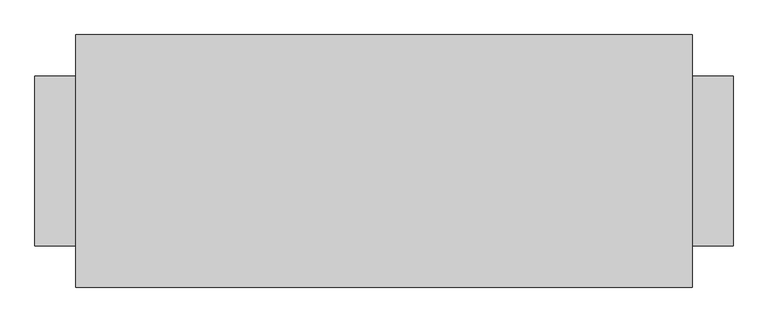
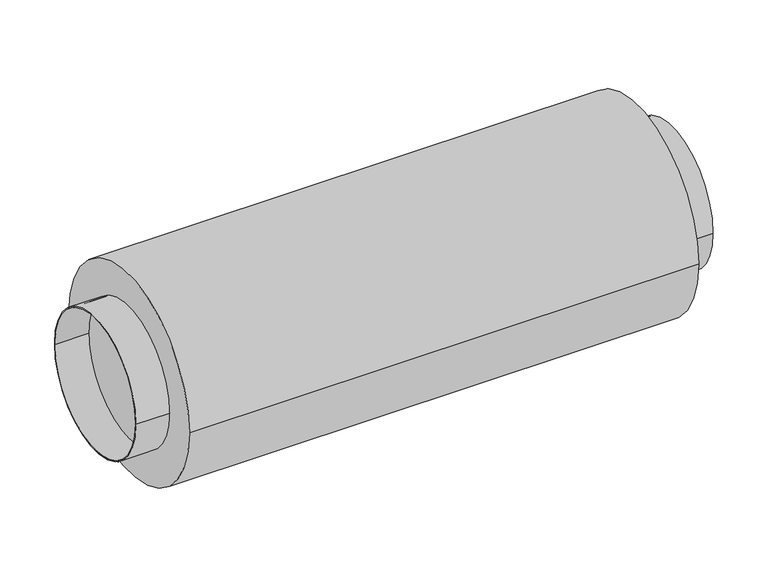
"""IFC4 building model written with IfcOpenShell, lengths in millimetres: damper geometry, СВ_Шумоглушитель_КанальныйКруглый_DN100-315_SHK : SHK-250/900."""

import ifcopenshell
import ifcopenshell.guid

model = None  # the IFC model being written
_history = None  # IfcOwnerHistory: only IFC2X3 demands one
_inside = {}  # id of a spatial element -> (the spatial element, [elements in it])
_under = {}  # id of a project, library or spatial element -> (it, [spatial elements below it])
_declared = {}  # id of a project -> (the project, [libraries it declares])
_typed = {}  # id of a type object -> (the type object, [elements of that type])
_made_of = {}  # id of a material, layer set ... -> (it, [elements and type objects made of it])


def new_model(schema):
    """Start an empty IFC model of exactly this schema.

    Asked for "IFC4X3", IfcOpenShell would pick the latest addendum, in which some entities
    have other attributes; the version numbers below select the first issue.
    IFC2X3 requires an IfcOwnerHistory on every rooted entity: one is made here for all.
    """
    global model, _history
    if schema == "IFC4X3":
        model = ifcopenshell.file(schema_version=(4, 3, 0, 0))
    else:
        model = ifcopenshell.file(schema=schema)
    _inside.clear()
    _under.clear()
    _declared.clear()
    _typed.clear()
    _made_of.clear()
    _history = None
    if model.schema == "IFC2X3":
        org = make("IfcOrganization", Name="unknown")
        user = make(
            "IfcPersonAndOrganization",
            ThePerson=make("IfcPerson", FamilyName="unknown"),
            TheOrganization=org,
        )
        app = make(
            "IfcApplication",
            ApplicationDeveloper=org,
            Version="unknown",
            ApplicationFullName="unknown",
            ApplicationIdentifier="unknown",
        )
        _history = make(
            "IfcOwnerHistory",
            OwningUser=user,
            OwningApplication=app,
            ChangeAction="ADDED",
            CreationDate=0,
        )
    return model


def make(cls, **values):
    """One entity of the class cls with the attributes given. An attribute that is None is left unset."""
    return model.create_entity(
        cls, **{name: value for name, value in values.items() if value is not None}
    )


def rooted(cls, **values):
    """An entity with a GlobalId (a new one), such as an element, a storey or a relation."""
    return make(cls, GlobalId=ifcopenshell.guid.new(), OwnerHistory=_history, **values)


def si_unit(unit_type, name, prefix=None):
    """IfcSIUnit, for example si_unit("LENGTHUNIT", "METRE", prefix="MILLI")."""
    return make("IfcSIUnit", UnitType=unit_type, Prefix=prefix, Name=name)


def assignment(units):
    """IfcUnitAssignment: the units of a project."""
    return None if units is None else make("IfcUnitAssignment", Units=units)


def point(xyz):
    """IfcCartesianPoint."""
    return None if xyz is None else make("IfcCartesianPoint", Coordinates=xyz)


def direction(xyz):
    """IfcDirection."""
    return None if xyz is None else make("IfcDirection", DirectionRatios=xyz)


def frame(location, z_axis=None, x_axis=None):
    """IfcAxis2Placement3D, a coordinate frame: its origin and axes. An axis left out is left unset."""
    return make(
        "IfcAxis2Placement3D",
        Location=point(location),
        Axis=direction(z_axis),
        RefDirection=direction(x_axis),
    )


def frame_2d(location, x_axis=None):
    """IfcAxis2Placement2D, a coordinate frame in the plane: its origin and x axis."""
    return make(
        "IfcAxis2Placement2D", Location=point(location), RefDirection=direction(x_axis)
    )


def origin():
    """The frame at (0, 0, 0) with its axes left unset."""
    return frame((0.0, 0.0, 0.0))


def origin_2d():
    """The frame at (0, 0) in the plane with its x axis left unset."""
    return frame_2d((0.0, 0.0))


def place(relative_to, where):
    """IfcLocalPlacement: puts the frame where relative to a parent placement (None: the world)."""
    return make(
        "IfcLocalPlacement", PlacementRelTo=relative_to, RelativePlacement=where
    )


def context(
    kind, dimensions, precision=None, world=None, true_north=None, identifier=None
):
    """IfcGeometricRepresentationContext, for example the 3D "Model" context."""
    return make(
        "IfcGeometricRepresentationContext",
        ContextIdentifier=identifier,
        ContextType=kind,
        CoordinateSpaceDimension=dimensions,
        Precision=precision,
        WorldCoordinateSystem=world,
        TrueNorth=true_north,
    )


def project(units=None, contexts=None):
    """IfcProject with its units and contexts."""
    return rooted(
        "IfcProject",
        Name="project",
        RepresentationContexts=contexts,
        UnitsInContext=assignment(units),
    )


def spatial(cls, under=None, at=None, **own):
    """A site, building, storey or space (cls), placed at a placement, below another one or the project."""
    s = rooted(cls, ObjectPlacement=at, **own)
    if under is not None:
        _under.setdefault(under.id(), (under, []))[1].append(s)
    return s


def circle_curve(where, radius):
    """IfcCircle in the frame where."""
    return make("IfcCircle", Position=where, Radius=radius)


def trimmed(basis, trim1, trim2, sense, master):
    """IfcTrimmedCurve: the piece of a basis curve between two trims."""
    return make(
        "IfcTrimmedCurve",
        BasisCurve=basis,
        Trim1=trim1,
        Trim2=trim2,
        SenseAgreement=sense,
        MasterRepresentation=master,
    )


def segment(curve, same_sense, transition):
    """IfcCompositeCurveSegment."""
    return make(
        "IfcCompositeCurveSegment",
        Transition=transition,
        SameSense=same_sense,
        ParentCurve=curve,
    )


def composite_curve(segments, self_intersect=None):
    """IfcCompositeCurve: segments joined end to end."""
    return make("IfcCompositeCurve", Segments=segments, SelfIntersect=self_intersect)


def outline(outer, holes=None, kind="AREA"):
    """IfcArbitraryClosedProfileDef: a profile drawn as a closed curve; with holes, ...WithVoids."""
    if holes is None:
        return make("IfcArbitraryClosedProfileDef", ProfileType=kind, OuterCurve=outer)
    return make(
        "IfcArbitraryProfileDefWithVoids",
        ProfileType=kind,
        OuterCurve=outer,
        InnerCurves=holes,
    )


def extrude(swept, where, along, depth):
    """IfcExtrudedAreaSolid: the profile swept, set in the frame where, extruded along a direction by depth."""
    return make(
        "IfcExtrudedAreaSolid",
        SweptArea=swept,
        Position=where,
        ExtrudedDirection=direction(along),
        Depth=depth,
    )


def shape(context_of_items, identifier, shape_type, items):
    """IfcShapeRepresentation: the items that make up one representation, for example the "Body"."""
    return make(
        "IfcShapeRepresentation",
        ContextOfItems=context_of_items,
        RepresentationIdentifier=identifier,
        RepresentationType=shape_type,
        Items=items,
    )


def source(mapping_origin, context_of_items, identifier, shape_type, items):
    """IfcRepresentationMap: a shape defined once, which mapped items show again and again."""
    return make(
        "IfcRepresentationMap",
        MappingOrigin=mapping_origin,
        MappedRepresentation=shape(context_of_items, identifier, shape_type, items),
    )


def transform(
    local_origin,
    x_axis=None,
    y_axis=None,
    z_axis=None,
    scale=None,
    scale2=None,
    scale3=None,
    uniform=True,
):
    """IfcCartesianTransformationOperator3D, or its non-uniform kind. x_axis, y_axis, z_axis: its Axis1, 2, 3."""
    if uniform:
        return make(
            "IfcCartesianTransformationOperator3D",
            Axis1=direction(x_axis),
            Axis2=direction(y_axis),
            LocalOrigin=point(local_origin),
            Scale=scale,
            Axis3=direction(z_axis),
        )
    return make(
        "IfcCartesianTransformationOperator3DnonUniform",
        Axis1=direction(x_axis),
        Axis2=direction(y_axis),
        LocalOrigin=point(local_origin),
        Scale=scale,
        Axis3=direction(z_axis),
        Scale2=scale2,
        Scale3=scale3,
    )


def mapped(mapping_source, mapping_target):
    """IfcMappedItem: shows the shape of a source again, moved by a transform."""
    return make(
        "IfcMappedItem", MappingSource=mapping_source, MappingTarget=mapping_target
    )


def made_of(thing, what):
    """Note that an element or type object is made of a material, layer set ...; save() writes the relation."""
    if what is not None:
        _made_of.setdefault(what.id(), (what, []))[1].append(thing)
    return thing


def element(
    cls,
    number,
    at=None,
    inside=None,
    cuts=None,
    type_object=None,
    material=None,
    context=None,
    identifier="Body",
    shape_type=None,
    held_by="IfcProductDefinitionShape",
    body=None,
    shapes=None,
    **own,
):
    """One element of the class cls, such as IfcWall. Its Tag is "e" and its number.

    at: its placement. inside: the storey or other place that contains it. cuts: it is an
    opening in that element (IfcRelVoidsElement). A single representation is given by context,
    identifier, shape_type and body (its items); several are given by shapes. held_by: the class
    of the entity that holds the representations. save() writes the other relations.
    """
    e = rooted(cls, Tag="e%d" % number, ObjectPlacement=at, **own)
    if body is not None:
        shapes = [shape(context, identifier, shape_type, body)]
    if shapes is not None:
        e.Representation = make(held_by, Representations=shapes)
    if inside is not None:
        _inside.setdefault(inside.id(), (inside, []))[1].append(e)
    if cuts is not None:
        rooted(
            "IfcRelVoidsElement", RelatingBuildingElement=cuts, RelatedOpeningElement=e
        )
    if type_object is not None:
        _typed.setdefault(type_object.id(), (type_object, []))[1].append(e)
    return made_of(e, material)


def aggregate(whole, parts):
    """IfcRelAggregates: a whole, such as a stair, and the parts it consists of."""
    return rooted("IfcRelAggregates", RelatingObject=whole, RelatedObjects=parts)


def save(model, path):
    """Write the relations noted so far, then the file.

    IfcRelAggregates (storeys below a building ...), IfcRelContainedInSpatialStructure (elements
    in a storey), IfcRelDefinesByType, IfcRelAssociatesMaterial and IfcRelDeclares: one each for
    every whole, place, type object, material and project.
    """
    for whole, parts in _under.values():
        aggregate(whole, parts)
    for where, things in _inside.values():
        rooted(
            "IfcRelContainedInSpatialStructure",
            RelatedElements=things,
            RelatingStructure=where,
        )
    for kind, things in _typed.values():
        rooted("IfcRelDefinesByType", RelatedObjects=things, RelatingType=kind)
    for what, things in _made_of.values():
        rooted("IfcRelAssociatesMaterial", RelatedObjects=things, RelatingMaterial=what)
    for by, libraries in _declared.values():
        rooted("IfcRelDeclares", RelatingContext=by, RelatedDefinitions=libraries)
    model.write(path)


def damper_3751c1ea(model_context):
    return source(origin(), model_context, "Body", "SweptSolid", [
        extrude(outline(composite_curve([segment(trimmed(circle_curve(origin_2d(), 184.5), [point((-184.5, 0.0))], [point((184.5, 0.0))], False, "CARTESIAN"), True, "CONTINUOUS"), segment(trimmed(circle_curve(origin_2d(), 184.5), [point((184.5, 0.0))], [point((-184.5, 0.0))], False, "CARTESIAN"), True, "CONTINUOUS")], self_intersect=False)), frame((-450.0, 0.0, 0.0), z_axis=(1.0, 0.0, 0.0), x_axis=(0.0, 1.0, 0.0)), (0.0, 0.0, 1.0), 900.0),
        extrude(outline(composite_curve([segment(trimmed(circle_curve(origin_2d(), 124.5), [point((-124.5, 0.0))], [point((124.5, 0.0))], False, "CARTESIAN"), True, "CONTINUOUS"), segment(trimmed(circle_curve(origin_2d(), 124.5), [point((124.5, 0.0))], [point((-124.5, 0.0))], False, "CARTESIAN"), True, "CONTINUOUS")], self_intersect=False), holes=[composite_curve([segment(trimmed(circle_curve(origin_2d(), 122.5), [point((-122.5, 0.0))], [point((122.5, 0.0))], True, "CARTESIAN"), True, "CONTINUOUS"), segment(trimmed(circle_curve(origin_2d(), 122.5), [point((122.5, 0.0))], [point((-122.5, 0.0))], True, "CARTESIAN"), True, "CONTINUOUS")], self_intersect=False)]), frame((-510.0, 0.0, 0.0), z_axis=(1.0, 0.0, 0.0), x_axis=(0.0, 1.0, 0.0)), (0.0, 0.0, 1.0), 60.0),
        extrude(outline(composite_curve([segment(trimmed(circle_curve(origin_2d(), 124.5), [point((-124.5, 0.0))], [point((124.5, 0.0))], False, "CARTESIAN"), True, "CONTINUOUS"), segment(trimmed(circle_curve(origin_2d(), 124.5), [point((124.5, 0.0))], [point((-124.5, 0.0))], False, "CARTESIAN"), True, "CONTINUOUS")], self_intersect=False), holes=[composite_curve([segment(trimmed(circle_curve(origin_2d(), 122.5), [point((-122.5, 0.0))], [point((122.5, 0.0))], True, "CARTESIAN"), True, "CONTINUOUS"), segment(trimmed(circle_curve(origin_2d(), 122.5), [point((122.5, 0.0))], [point((-122.5, 0.0))], True, "CARTESIAN"), True, "CONTINUOUS")], self_intersect=False)]), frame((450.0, 0.0, 0.0), z_axis=(1.0, 0.0, 0.0), x_axis=(0.0, 1.0, 0.0)), (0.0, 0.0, 1.0), 60.0),
    ])


if __name__ == "__main__":
    model = new_model("IFC4")
    model_context = context("Model", 3, world=origin())
    ifc_project = project(units=[si_unit("LENGTHUNIT", "METRE", prefix="MILLI")], contexts=[model_context])
    site = spatial("IfcSite", under=ifc_project)
    building = spatial("IfcBuilding", under=site)
    placement = place(None, origin())
    damper_shape = damper_3751c1ea(model_context)
    element("IfcDamper", 1, ObjectType="СВ_Шумоглушитель_КанальныйКруглый_DN100-315_SHK : SHK-250/900", at=placement, inside=building, context=model_context, shape_type="MappedRepresentation", body=[
        mapped(damper_shape, transform((0.0, 0.0, 0.0), x_axis=(1.0, 0.0, 0.0), y_axis=(0.0, 1.0, 0.0), z_axis=(0.0, 0.0, 1.0))),
    ])
    save(model, "model.ifc")
